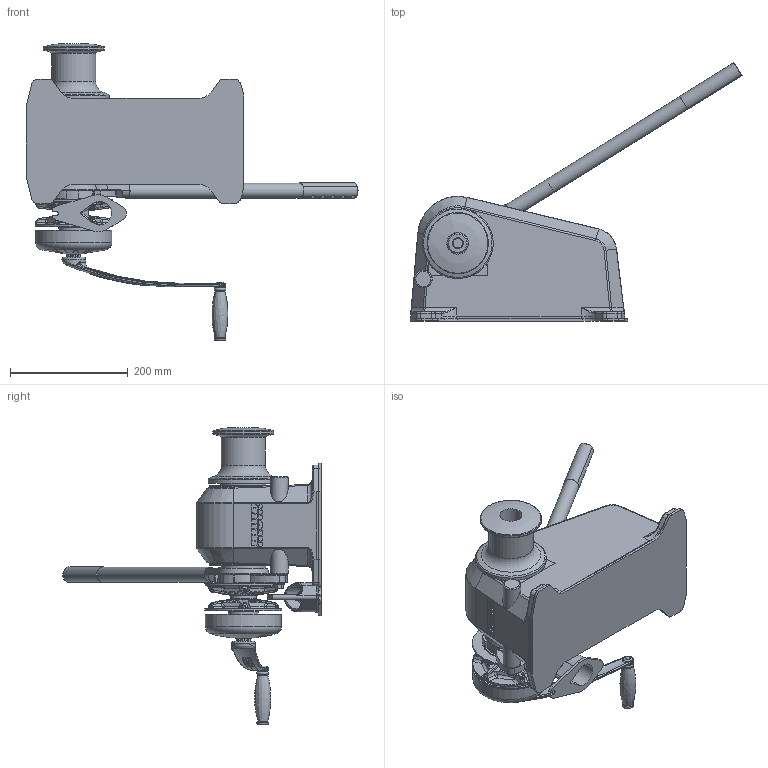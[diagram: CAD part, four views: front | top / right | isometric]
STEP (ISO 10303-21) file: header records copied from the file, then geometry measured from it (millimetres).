
FILE_DESCRIPTION(/* description */ (''),/* implementation_level */ '2;1');
FILE_NAME(/* name */ 'HR1600 - 6-8-10mm.stp',/* time_stamp */ '2025-11-28T09:58:45+11:00',/* author */ ('markus.mendgen'),/* organization */ (''),/* preprocessor_version */ 'ST-DEVELOPER v20',/* originating_system */ 'Autodesk Inventor 2025',/* authorisation */ '');
FILE_SCHEMA (('AUTOMOTIVE_DESIGN { 1 0 10303 214 3 1 1 }'));
Products named in the file (1): U001043_Simplify
Bounding box: 562.75 x 438.07 x 503.27 mm (x, y, z)
Volume: 3265188 mm3; surface area: 916896 mm2
Topology: 8 solids, 8 shells, 2527 faces, 6647 edges, 4155 vertices
Faces by surface type: cylinder 952, plane 741, bspline 444, torus 190, cone 110, sphere 90
Full cylindrical faces by diameter (mm): 2 x3, 6 x2, 7.938 x1, 8 x1, 10 x1, 12.7 x1, 13.7 x1, 17 x1, 18.644 x2, 21.4 x1, 22 x1, 25.1 x1, 25.4 x1, 27 x1, 30 x2, 35 x1, 35.3 x2, 36.05 x1, 36.2 x1, 36.6 x1, 37 x1, 40 x2, 41.3 x2, 41.9 x1, 44.2 x1, 48.05 x1, 48.4 x1, 50.8 x1, 69.82 x1, 70.6 x1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
Entity records: 99182 total; most frequent: CARTESIAN_POINT 39338, ORIENTED_EDGE 13190, DIRECTION 11813, EDGE_CURVE 6595, AXIS2_PLACEMENT_3D 4595, VERTEX_POINT 4155, LINE 2623, VECTOR 2623
